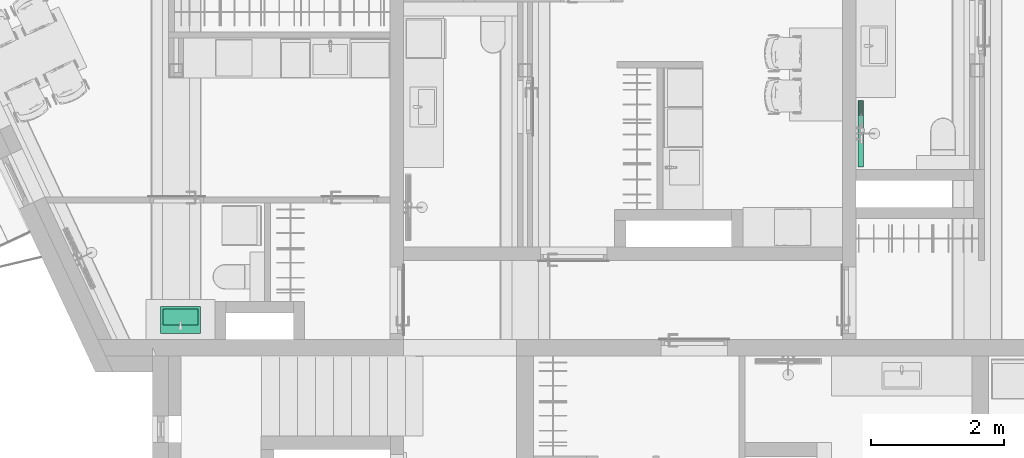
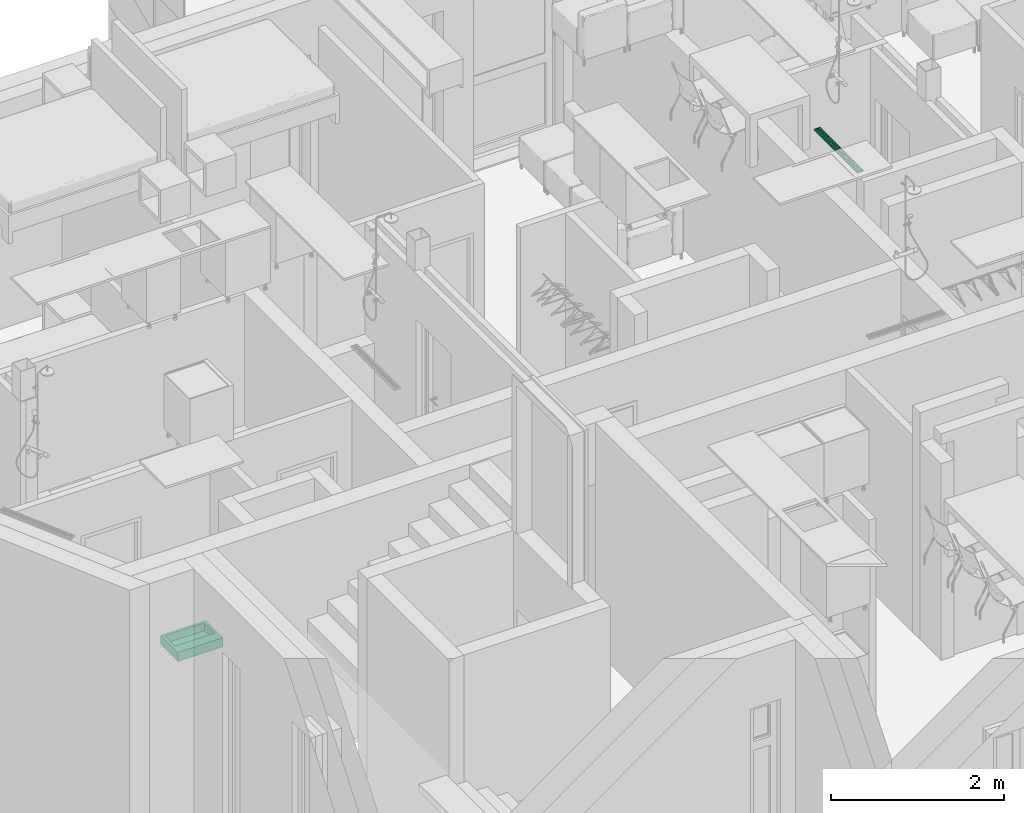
# One storey, part 52 of 125: 2 flow terminals.
"""IFC2X3 building model written with IfcOpenShell, lengths in millimetres."""

import ifcopenshell
import ifcopenshell.guid

model = None  # the IFC model being written
_history = None  # IfcOwnerHistory: only IFC2X3 demands one
_inside = {}  # id of a spatial element -> (the spatial element, [elements in it])
_under = {}  # id of a project, library or spatial element -> (it, [spatial elements below it])
_declared = {}  # id of a project -> (the project, [libraries it declares])
_typed = {}  # id of a type object -> (the type object, [elements of that type])
_made_of = {}  # id of a material, layer set ... -> (it, [elements and type objects made of it])


def new_model(schema):
    """Start an empty IFC model of exactly this schema.

    Asked for "IFC4X3", IfcOpenShell would pick the latest addendum, in which some entities
    have other attributes; the version numbers below select the first issue.
    IFC2X3 requires an IfcOwnerHistory on every rooted entity: one is made here for all.
    """
    global model, _history
    if schema == "IFC4X3":
        model = ifcopenshell.file(schema_version=(4, 3, 0, 0))
    else:
        model = ifcopenshell.file(schema=schema)
    _inside.clear()
    _under.clear()
    _declared.clear()
    _typed.clear()
    _made_of.clear()
    _history = None
    if model.schema == "IFC2X3":
        org = make("IfcOrganization", Name="unknown")
        user = make(
            "IfcPersonAndOrganization",
            ThePerson=make("IfcPerson", FamilyName="unknown"),
            TheOrganization=org,
        )
        app = make(
            "IfcApplication",
            ApplicationDeveloper=org,
            Version="unknown",
            ApplicationFullName="unknown",
            ApplicationIdentifier="unknown",
        )
        _history = make(
            "IfcOwnerHistory",
            OwningUser=user,
            OwningApplication=app,
            ChangeAction="ADDED",
            CreationDate=0,
        )
    return model


def make(cls, **values):
    """One entity of the class cls with the attributes given. An attribute that is None is left unset."""
    return model.create_entity(
        cls, **{name: value for name, value in values.items() if value is not None}
    )


def entity(cls, *values):
    """Any entity or typed value of the class cls, its attributes in the order of the schema. None: left unset."""
    e = model.create_entity(cls)
    for i, value in enumerate(values):
        if value is not None:
            e[i] = value
    return e


def rooted(cls, **values):
    """An entity with a GlobalId (a new one), such as an element, a storey or a relation."""
    return make(cls, GlobalId=ifcopenshell.guid.new(), OwnerHistory=_history, **values)


def si_unit(unit_type, name, prefix=None):
    """IfcSIUnit, for example si_unit("LENGTHUNIT", "METRE", prefix="MILLI")."""
    return make("IfcSIUnit", UnitType=unit_type, Prefix=prefix, Name=name)


def converted_unit(unit_type, name, factor, base, dimensions=None, offset=None):
    """IfcConversionBasedUnit, such as the inch: factor (a typed value) times the base unit."""
    return make(
        "IfcConversionBasedUnit"
        if offset is None
        else "IfcConversionBasedUnitWithOffset",
        ConversionOffset=offset,
        Dimensions=None
        if dimensions is None
        else entity("IfcDimensionalExponents", *dimensions),
        UnitType=unit_type,
        Name=name,
        ConversionFactor=make(
            "IfcMeasureWithUnit", ValueComponent=factor, UnitComponent=base
        ),
    )


def assignment(units):
    """IfcUnitAssignment: the units of a project."""
    return None if units is None else make("IfcUnitAssignment", Units=units)


def point(xyz):
    """IfcCartesianPoint."""
    return None if xyz is None else make("IfcCartesianPoint", Coordinates=xyz)


def direction(xyz):
    """IfcDirection."""
    return None if xyz is None else make("IfcDirection", DirectionRatios=xyz)


def frame(location, z_axis=None, x_axis=None):
    """IfcAxis2Placement3D, a coordinate frame: its origin and axes. An axis left out is left unset."""
    return make(
        "IfcAxis2Placement3D",
        Location=point(location),
        Axis=direction(z_axis),
        RefDirection=direction(x_axis),
    )


def origin():
    """The frame at (0, 0, 0) with its axes left unset."""
    return frame((0.0, 0.0, 0.0))


def place(relative_to, where):
    """IfcLocalPlacement: puts the frame where relative to a parent placement (None: the world)."""
    return make(
        "IfcLocalPlacement", PlacementRelTo=relative_to, RelativePlacement=where
    )


def context(
    kind, dimensions, precision=None, world=None, true_north=None, identifier=None
):
    """IfcGeometricRepresentationContext, for example the 3D "Model" context."""
    return make(
        "IfcGeometricRepresentationContext",
        ContextIdentifier=identifier,
        ContextType=kind,
        CoordinateSpaceDimension=dimensions,
        Precision=precision,
        WorldCoordinateSystem=world,
        TrueNorth=true_north,
    )


def subcontext(parent, identifier, kind, view, scale=None):
    """IfcGeometricRepresentationSubContext, for example "Body" below "Model"."""
    return make(
        "IfcGeometricRepresentationSubContext",
        ContextIdentifier=identifier,
        ContextType=kind,
        ParentContext=parent,
        TargetScale=scale,
        TargetView=view,
    )


def project(units=None, contexts=None):
    """IfcProject with its units and contexts."""
    return rooted(
        "IfcProject",
        Name="project",
        RepresentationContexts=contexts,
        UnitsInContext=assignment(units),
    )


def spatial(cls, under=None, at=None, **own):
    """A site, building, storey or space (cls), placed at a placement, below another one or the project."""
    s = rooted(cls, ObjectPlacement=at, **own)
    if under is not None:
        _under.setdefault(under.id(), (under, []))[1].append(s)
    return s


def faces_of(points, faces, orient=None, outer=None):
    """IfcFace entities. A face is a list of loops; a loop is a list of indices into points, from 0.

    orient and outer hold one flag for each loop. By default every Orientation is true, the
    first loop of a face is its IfcFaceOuterBound and the others are IfcFaceBound.
    """
    made = []
    for i, loops in enumerate(faces):
        bounds = []
        for j, loop in enumerate(loops):
            is_outer = j == 0 if outer is None else outer[i][j]
            bounds.append(
                make(
                    "IfcFaceOuterBound" if is_outer else "IfcFaceBound",
                    Bound=make("IfcPolyLoop", Polygon=[points[k] for k in loop]),
                    Orientation=True if orient is None else orient[i][j],
                )
            )
        made.append(make("IfcFace", Bounds=bounds))
    return made


def faceted_brep(points, faces, orient=None, outer=None, voids=None):
    """IfcFacetedBrep: a solid bounded by flat faces; with voids (closed shells), ...WithVoids."""
    shared = [point(p) for p in points]
    hull = make("IfcClosedShell", CfsFaces=faces_of(shared, faces, orient, outer))
    if voids is None:
        return make("IfcFacetedBrep", Outer=hull)
    return make(
        "IfcFacetedBrepWithVoids",
        Outer=hull,
        Voids=[
            make(cls, CfsFaces=faces_of(shared, fs, o, b)) for cls, fs, o, b in voids
        ],
    )


def shape(context_of_items, identifier, shape_type, items):
    """IfcShapeRepresentation: the items that make up one representation, for example the "Body"."""
    return make(
        "IfcShapeRepresentation",
        ContextOfItems=context_of_items,
        RepresentationIdentifier=identifier,
        RepresentationType=shape_type,
        Items=items,
    )


def source(mapping_origin, context_of_items, identifier, shape_type, items):
    """IfcRepresentationMap: a shape defined once, which mapped items show again and again."""
    return make(
        "IfcRepresentationMap",
        MappingOrigin=mapping_origin,
        MappedRepresentation=shape(context_of_items, identifier, shape_type, items),
    )


def transform(
    local_origin,
    x_axis=None,
    y_axis=None,
    z_axis=None,
    scale=None,
    scale2=None,
    scale3=None,
    uniform=True,
):
    """IfcCartesianTransformationOperator3D, or its non-uniform kind. x_axis, y_axis, z_axis: its Axis1, 2, 3."""
    if uniform:
        return make(
            "IfcCartesianTransformationOperator3D",
            Axis1=direction(x_axis),
            Axis2=direction(y_axis),
            LocalOrigin=point(local_origin),
            Scale=scale,
            Axis3=direction(z_axis),
        )
    return make(
        "IfcCartesianTransformationOperator3DnonUniform",
        Axis1=direction(x_axis),
        Axis2=direction(y_axis),
        LocalOrigin=point(local_origin),
        Scale=scale,
        Axis3=direction(z_axis),
        Scale2=scale2,
        Scale3=scale3,
    )


def mapped(mapping_source, mapping_target):
    """IfcMappedItem: shows the shape of a source again, moved by a transform."""
    return make(
        "IfcMappedItem", MappingSource=mapping_source, MappingTarget=mapping_target
    )


def material(Name=None, Category=None):
    """IfcMaterial."""
    return make("IfcMaterial", Name=Name, Category=Category)


def made_of(thing, what):
    """Note that an element or type object is made of a material, layer set ...; save() writes the relation."""
    if what is not None:
        _made_of.setdefault(what.id(), (what, []))[1].append(thing)
    return thing


def type_object(cls, material=None, **own):
    """A type object (cls), such as IfcWallType, which elements share."""
    return made_of(rooted(cls, **own), material)


def type_shapes(of_type, sources):
    """Give a type object the sources (RepresentationMaps) that its elements show as mapped items."""
    of_type.RepresentationMaps = sources


def element(
    cls,
    number,
    at=None,
    inside=None,
    cuts=None,
    type_object=None,
    material=None,
    context=None,
    identifier="Body",
    shape_type=None,
    held_by="IfcProductDefinitionShape",
    body=None,
    shapes=None,
    **own,
):
    """One element of the class cls, such as IfcWall. Its Tag is "e" and its number.

    at: its placement. inside: the storey or other place that contains it. cuts: it is an
    opening in that element (IfcRelVoidsElement). A single representation is given by context,
    identifier, shape_type and body (its items); several are given by shapes. held_by: the class
    of the entity that holds the representations. save() writes the other relations.
    """
    e = rooted(cls, Tag="e%d" % number, ObjectPlacement=at, **own)
    if body is not None:
        shapes = [shape(context, identifier, shape_type, body)]
    if shapes is not None:
        e.Representation = make(held_by, Representations=shapes)
    if inside is not None:
        _inside.setdefault(inside.id(), (inside, []))[1].append(e)
    if cuts is not None:
        rooted(
            "IfcRelVoidsElement", RelatingBuildingElement=cuts, RelatedOpeningElement=e
        )
    if type_object is not None:
        _typed.setdefault(type_object.id(), (type_object, []))[1].append(e)
    return made_of(e, material)


def aggregate(whole, parts):
    """IfcRelAggregates: a whole, such as a stair, and the parts it consists of."""
    return rooted("IfcRelAggregates", RelatingObject=whole, RelatedObjects=parts)


def save(model, path):
    """Write the relations noted so far, then the file.

    IfcRelAggregates (storeys below a building ...), IfcRelContainedInSpatialStructure (elements
    in a storey), IfcRelDefinesByType, IfcRelAssociatesMaterial and IfcRelDeclares: one each for
    every whole, place, type object, material and project.
    """
    for whole, parts in _under.values():
        aggregate(whole, parts)
    for where, things in _inside.values():
        rooted(
            "IfcRelContainedInSpatialStructure",
            RelatedElements=things,
            RelatingStructure=where,
        )
    for kind, things in _typed.values():
        rooted("IfcRelDefinesByType", RelatedObjects=things, RelatingType=kind)
    for what, things in _made_of.values():
        rooted("IfcRelAssociatesMaterial", RelatedObjects=things, RelatingMaterial=what)
    for by, libraries in _declared.values():
        rooted("IfcRelDeclares", RelatingContext=by, RelatedDefinitions=libraries)
    model.write(path)


model = new_model("IFC2X3")

# Units and contexts
model_context = context("Model", 3, precision=0.01, world=origin(), true_north=direction((6.123233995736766e-17, 1.0)))
plan_context = context("Plan", 3, precision=0.01, world=origin(), true_north=direction((6.123233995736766e-17, 1.0)))
body_context = subcontext(model_context, "Body", "Model", "MODEL_VIEW")
ifc_project = project(units=[si_unit("LENGTHUNIT", "METRE", prefix="MILLI"), converted_unit("PLANEANGLEUNIT", "DEGREE", entity("IfcPlaneAngleMeasure", 0.017453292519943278), si_unit("PLANEANGLEUNIT", "RADIAN"), dimensions=[0, 0, 0, 0, 0, 0, 0]), si_unit("AREAUNIT", "SQUARE_METRE")], contexts=[model_context, plan_context])

# Site, building, storey, space
site_placement = place(None, origin())
site = spatial("IfcSite", under=ifc_project, at=site_placement, Name="Default", CompositionType="ELEMENT")
building_placement = place(site_placement, origin())
building = spatial("IfcBuilding", under=site, at=building_placement, CompositionType="ELEMENT")
storey_placement = place(building_placement, frame((0.0, 0.0, 3125.0)))
storey = spatial("IfcBuildingStorey", under=building, at=storey_placement, Name="2K", CompositionType="ELEMENT", Elevation=3125.0)
space_1_placement = place(storey_placement, origin())
space_1 = spatial("IfcSpace", under=storey, at=space_1_placement, Name="2-3.4", CompositionType="ELEMENT", InteriorOrExteriorSpace="INTERNAL")

# Flow terminal
ifc_material = material(Name="<Unnamed>")
distribution_element_type_1 = type_object("IfcDistributionElementType", Name="HR_Plumbing-fixtures_Drain_Channel_Generic_v1:Default", material=ifc_material)
shared_shape_1 = source(origin(), body_context, "Body", "Brep", [
    faceted_brep([(500.0, 80.0, 0.0), (-500.0, 80.0, 0.0), (-500.0, 0.0, 0.0), (500.0, 0.0, 0.0), (20.0, 70.0, 0.0), (25.0, 70.0, 0.0), (25.0, 10.0, 0.0), (20.0, 10.0, 0.0), (35.0, 70.0, 0.0), (40.0, 70.0, 0.0), (40.0, 10.0, 0.0), (35.0, 10.0, 0.0), (50.0, 70.0, 0.0), (55.0, 70.0, 0.0), (55.0, 10.0, 0.0), (50.0, 10.0, 0.0), (65.0, 70.0, 0.0), (70.0, 70.0, 0.0), (70.0, 10.0, 0.0), (65.0, 10.0, 0.0), (80.0, 70.0, 0.0), (85.0, 70.0, 0.0), (85.0, 10.0, 0.0), (80.0, 10.0, 0.0), (95.0, 70.0, 0.0), (100.0, 70.0, 0.0), (100.0, 10.0, 0.0), (95.0, 10.0, 0.0), (110.0, 70.0, 0.0), (115.0, 70.0, 0.0), (115.0, 10.0, 0.0), (110.0, 10.0, 0.0), (125.0, 70.0, 0.0), (130.0, 70.0, 0.0), (130.0, 10.0, 0.0), (125.0, 10.0, 0.0), (140.0, 70.0, 0.0), (145.0, 70.0, 0.0), (145.0, 10.0, 0.0), (140.0, 10.0, 0.0), (155.0, 70.0, 0.0), (160.0, 70.0, 0.0), (160.0, 10.0, 0.0), (155.0, 10.0, 0.0), (170.0, 70.0, 0.0), (175.0, 70.0, 0.0), (175.0, 10.0, 0.0), (170.0, 10.0, 0.0), (185.0, 70.0, 0.0), (190.0, 70.0, 0.0), (190.0, 10.0, 0.0), (185.0, 10.0, 0.0), (200.0, 70.0, 0.0), (205.0, 70.0, 0.0), (205.0, 10.0, 0.0), (200.0, 10.0, 0.0), (215.0, 70.0, 0.0), (220.0, 70.0, 0.0), (220.0, 10.0, 0.0), (215.0, 10.0, 0.0), (230.0, 70.0, 0.0), (235.0, 70.0, 0.0), (235.0, 10.0, 0.0), (230.0, 10.0, 0.0), (245.0, 70.0, 0.0), (250.0, 70.0, 0.0), (250.0, 10.0, 0.0), (245.0, 10.0, 0.0), (260.0, 70.0, 0.0), (265.0, 70.0, 0.0), (265.0, 10.0, 0.0), (260.0, 10.0, 0.0), (275.0, 70.0, 0.0), (280.0, 70.0, 0.0), (280.0, 10.0, 0.0), (275.0, 10.0, 0.0), (290.0, 70.0, 0.0), (295.0, 70.0, 0.0), (295.0, 10.0, 0.0), (290.0, 10.0, 0.0), (305.0, 70.0, 0.0), (310.0, 70.0, 0.0), (310.0, 10.0, 0.0), (305.0, 10.0, 0.0), (320.0, 70.0, 0.0), (325.0, 70.0, 0.0), (325.0, 10.0, 0.0), (320.0, 10.0, 0.0), (335.0, 70.0, 0.0), (340.0, 70.0, 0.0), (340.0, 10.0, 0.0), (335.0, 10.0, 0.0), (350.0, 70.0, 0.0), (355.0, 70.0, 0.0), (355.0, 10.0, 0.0), (350.0, 10.0, 0.0), (365.0, 70.0, 0.0), (370.0, 70.0, 0.0), (370.0, 10.0, 0.0), (365.0, 10.0, 0.0), (380.0, 70.0, 0.0), (385.0, 70.0, 0.0), (385.0, 10.0, 0.0), (380.0, 10.0, 0.0), (-25.0, 70.0, 0.0), (-20.0, 70.0, 0.0), (-20.0, 10.0, 0.0), (-25.0, 10.0, 0.0), (-40.0, 70.0, 0.0), (-35.0, 70.0, 0.0), (-35.0, 10.0, 0.0), (-40.0, 10.0, 0.0), (-55.0, 70.0, 0.0), (-50.0, 70.0, 0.0), (-50.0, 10.0, 0.0), (-55.0, 10.0, 0.0), (-70.0, 70.0, 0.0), (-65.0, 70.0, 0.0), (-65.0, 10.0, 0.0), (-70.0, 10.0, 0.0), (-85.0, 70.0, 0.0), (-80.0, 70.0, 0.0), (-80.0, 10.0, 0.0), (-85.0, 10.0, 0.0), (-100.0, 70.0, 0.0), (-95.0, 70.0, 0.0), (-95.0, 10.0, 0.0), (-100.0, 10.0, 0.0), (-115.0, 70.0, 0.0), (-110.0, 70.0, 0.0), (-110.0, 10.0, 0.0), (-115.0, 10.0, 0.0), (-130.0, 70.0, 0.0), (-125.0, 70.0, 0.0), (-125.0, 10.0, 0.0), (-130.0, 10.0, 0.0), (-145.0, 70.0, 0.0), (-140.0, 70.0, 0.0), (-140.0, 10.0, 0.0), (-145.0, 10.0, 0.0), (-160.0, 70.0, 0.0), (-155.0, 70.0, 0.0), (-155.0, 10.0, 0.0), (-160.0, 10.0, 0.0), (-175.0, 70.0, 0.0), (-170.0, 70.0, 0.0), (-170.0, 10.0, 0.0), (-175.0, 10.0, 0.0), (-190.0, 70.0, 0.0), (-185.0, 70.0, 0.0), (-185.0, 10.0, 0.0), (-190.0, 10.0, 0.0), (-205.0, 70.0, 0.0), (-200.0, 70.0, 0.0), (-200.0, 10.0, 0.0), (-205.0, 10.0, 0.0), (-220.0, 70.0, 0.0), (-215.0, 70.0, 0.0), (-215.0, 10.0, 0.0), (-220.0, 10.0, 0.0), (-235.0, 70.0, 0.0), (-230.0, 70.0, 0.0), (-230.0, 10.0, 0.0), (-235.0, 10.0, 0.0), (-250.0, 70.0, 0.0), (-245.0, 70.0, 0.0), (-245.0, 10.0, 0.0), (-250.0, 10.0, 0.0), (-265.0, 70.0, 0.0), (-260.0, 70.0, 0.0), (-260.0, 10.0, 0.0), (-265.0, 10.0, 0.0), (-280.0, 70.0, 0.0), (-275.0, 70.0, 0.0), (-275.0, 10.0, 0.0), (-280.0, 10.0, 0.0), (-295.0, 70.0, 0.0), (-290.0, 70.0, 0.0), (-290.0, 10.0, 0.0), (-295.0, 10.0, 0.0), (-310.0, 70.0, 0.0), (-305.0, 70.0, 0.0), (-305.0, 10.0, 0.0), (-310.0, 10.0, 0.0), (-325.0, 70.0, 0.0), (-320.0, 70.0, 0.0), (-320.0, 10.0, 0.0), (-325.0, 10.0, 0.0), (-340.0, 70.0, 0.0), (-335.0, 70.0, 0.0), (-335.0, 10.0, 0.0), (-340.0, 10.0, 0.0), (-355.0, 70.0, 0.0), (-350.0, 70.0, 0.0), (-350.0, 10.0, 0.0), (-355.0, 10.0, 0.0), (-370.0, 70.0, 0.0), (-365.0, 70.0, 0.0), (-365.0, 10.0, 0.0), (-370.0, 10.0, 0.0), (-385.0, 70.0, 0.0), (-380.0, 70.0, 0.0), (-380.0, 10.0, 0.0), (-385.0, 10.0, 0.0), (395.0, 70.0, 0.0), (400.0, 70.0, 0.0), (400.0, 10.0, 0.0), (395.0, 10.0, 0.0), (410.0, 70.0, 0.0), (415.0, 70.0, 0.0), (415.0, 10.0, 0.0), (410.0, 10.0, 0.0), (425.0, 70.0, 0.0), (430.0, 70.0, 0.0), (430.0, 10.0, 0.0), (425.0, 10.0, 0.0), (440.0, 70.0, 0.0), (445.0, 70.0, 0.0), (445.0, 10.0, 0.0), (440.0, 10.0, 0.0), (455.0, 70.0, 0.0), (460.0, 70.0, 0.0), (460.0, 10.0, 0.0), (455.0, 10.0, 0.0), (470.0, 70.0, 0.0), (475.0, 70.0, 0.0), (475.0, 10.0, 0.0), (470.0, 10.0, 0.0), (485.0, 70.0, 0.0), (490.0, 70.0, 0.0), (490.0, 10.0, 0.0), (485.0, 10.0, 0.0), (-400.0, 70.0, 0.0), (-395.0, 70.0, 0.0), (-395.0, 10.0, 0.0), (-400.0, 10.0, 0.0), (-415.0, 70.0, 0.0), (-410.0, 70.0, 0.0), (-410.0, 10.0, 0.0), (-415.0, 10.0, 0.0), (-430.0, 70.0, 0.0), (-425.0, 70.0, 0.0), (-425.0, 10.0, 0.0), (-430.0, 10.0, 0.0), (-445.0, 70.0, 0.0), (-440.0, 70.0, 0.0), (-440.0, 10.0, 0.0), (-445.0, 10.0, 0.0), (-460.0, 70.0, 0.0), (-455.0, 70.0, 0.0), (-455.0, 10.0, 0.0), (-460.0, 10.0, 0.0), (-475.0, 70.0, 0.0), (-470.0, 70.0, 0.0), (-470.0, 10.0, 0.0), (-475.0, 10.0, 0.0), (-490.0, 70.0, 0.0), (-485.0, 70.0, 0.0), (-485.0, 10.0, 0.0), (-490.0, 10.0, 0.0), (-10.0, 70.0, 0.0), (-5.0, 70.0, 0.0), (-5.0, 10.0, 0.0), (-10.0, 10.0, 0.0), (5.0, 70.0, 0.0), (10.0, 70.0, 0.0), (10.0, 10.0, 0.0), (5.0, 10.0, 0.0), (-500.0, 80.0, -20.0), (500.0, 80.0, -20.0), (500.0, 0.0, -20.0), (-500.0, 0.0, -20.0), (498.5000000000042, 78.500000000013, -20.0), (-498.49999999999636, 78.500000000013, -20.0), (-498.49999999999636, 1.5000000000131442, -20.0), (498.5000000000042, 1.5000000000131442, -20.0), (498.5000000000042, 78.500000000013, -1.5000000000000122), (498.5000000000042, 1.5000000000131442, -1.5000000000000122), (-498.49999999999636, 1.5000000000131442, -1.5000000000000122), (-498.49999999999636, 78.500000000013, -1.5000000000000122), (25.0, 70.0, -1.5000000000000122), (20.0, 70.0, -1.5000000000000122), (20.0, 10.0, -1.5000000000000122), (25.0, 10.0, -1.5000000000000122), (40.0, 70.0, -1.5000000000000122), (35.0, 70.0, -1.5000000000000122), (35.0, 10.0, -1.5000000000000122), (40.0, 10.0, -1.5000000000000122), (55.0, 70.0, -1.5000000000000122), (50.0, 70.0, -1.5000000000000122), (50.0, 10.0, -1.5000000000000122), (55.0, 10.0, -1.5000000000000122), (70.0, 70.0, -1.5000000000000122), (65.0, 70.0, -1.5000000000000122), (65.0, 10.0, -1.5000000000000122), (70.0, 10.0, -1.5000000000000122), (85.0, 70.0, -1.5000000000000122), (80.0, 70.0, -1.5000000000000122), (80.0, 10.0, -1.5000000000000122), (85.0, 10.0, -1.5000000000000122), (100.0, 70.0, -1.5000000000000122), (95.0, 70.0, -1.5000000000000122), (95.0, 10.0, -1.5000000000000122), (100.0, 10.0, -1.5000000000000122), (115.0, 70.0, -1.5000000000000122), (110.0, 70.0, -1.5000000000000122), (110.0, 10.0, -1.5000000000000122), (115.0, 10.0, -1.5000000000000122), (130.0, 70.0, -1.5000000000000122), (125.0, 70.0, -1.5000000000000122), (125.0, 10.0, -1.5000000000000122), (130.0, 10.0, -1.5000000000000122), (145.0, 70.0, -1.5000000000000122), (140.0, 70.0, -1.5000000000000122), (140.0, 10.0, -1.5000000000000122), (145.0, 10.0, -1.5000000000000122), (160.0, 70.0, -1.5000000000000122), (155.0, 70.0, -1.5000000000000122), (155.0, 10.0, -1.5000000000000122), (160.0, 10.0, -1.5000000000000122), (175.0, 70.0, -1.5000000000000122), (170.0, 70.0, -1.5000000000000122), (170.0, 10.0, -1.5000000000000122), (175.0, 10.0, -1.5000000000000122), (190.0, 70.0, -1.5000000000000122), (185.0, 70.0, -1.5000000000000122), (185.0, 10.0, -1.5000000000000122), (190.0, 10.0, -1.5000000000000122), (205.0, 70.0, -1.5000000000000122), (200.0, 70.0, -1.5000000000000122), (200.0, 10.0, -1.5000000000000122), (205.0, 10.0, -1.5000000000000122), (220.0, 70.0, -1.5000000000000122), (215.0, 70.0, -1.5000000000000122), (215.0, 10.0, -1.5000000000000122), (220.0, 10.0, -1.5000000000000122), (235.0, 70.0, -1.5000000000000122), (230.0, 70.0, -1.5000000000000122), (230.0, 10.0, -1.5000000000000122), (235.0, 10.0, -1.5000000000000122), (250.0, 70.0, -1.5000000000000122), (245.0, 70.0, -1.5000000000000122), (245.0, 10.0, -1.5000000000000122), (250.0, 10.0, -1.5000000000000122), (265.0, 70.0, -1.5000000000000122), (260.0, 70.0, -1.5000000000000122), (260.0, 10.0, -1.5000000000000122), (265.0, 10.0, -1.5000000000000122), (280.0, 70.0, -1.5000000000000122), (275.0, 70.0, -1.5000000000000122), (275.0, 10.0, -1.5000000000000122), (280.0, 10.0, -1.5000000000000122), (295.0, 70.0, -1.5000000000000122), (290.0, 70.0, -1.5000000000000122), (290.0, 10.0, -1.5000000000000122), (295.0, 10.0, -1.5000000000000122), (310.0, 70.0, -1.5000000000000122), (305.0, 70.0, -1.5000000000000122), (305.0, 10.0, -1.5000000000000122), (310.0, 10.0, -1.5000000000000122), (325.0, 70.0, -1.5000000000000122), (320.0, 70.0, -1.5000000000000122), (320.0, 10.0, -1.5000000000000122), (325.0, 10.0, -1.5000000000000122), (340.0, 70.0, -1.5000000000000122), (335.0, 70.0, -1.5000000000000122), (335.0, 10.0, -1.5000000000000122), (340.0, 10.0, -1.5000000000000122), (355.0, 70.0, -1.5000000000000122), (350.0, 70.0, -1.5000000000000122), (350.0, 10.0, -1.5000000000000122), (355.0, 10.0, -1.5000000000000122), (370.0, 70.0, -1.5000000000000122), (365.0, 70.0, -1.5000000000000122), (365.0, 10.0, -1.5000000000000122), (370.0, 10.0, -1.5000000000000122), (385.0, 70.0, -1.5000000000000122), (380.0, 70.0, -1.5000000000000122), (380.0, 10.0, -1.5000000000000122), (385.0, 10.0, -1.5000000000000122), (-20.0, 70.0, -1.5000000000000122), (-25.0, 70.0, -1.5000000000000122), (-25.0, 10.0, -1.5000000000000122), (-20.0, 10.0, -1.5000000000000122), (-35.0, 70.0, -1.5000000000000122), (-40.0, 70.0, -1.5000000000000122), (-40.0, 10.0, -1.5000000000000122), (-35.0, 10.0, -1.5000000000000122), (-50.0, 70.0, -1.5000000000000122), (-55.0, 70.0, -1.5000000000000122), (-55.0, 10.0, -1.5000000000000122), (-50.0, 10.0, -1.5000000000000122), (-65.0, 70.0, -1.5000000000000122), (-70.0, 70.0, -1.5000000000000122), (-70.0, 10.0, -1.5000000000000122), (-65.0, 10.0, -1.5000000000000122), (-80.0, 70.0, -1.5000000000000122), (-85.0, 70.0, -1.5000000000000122), (-85.0, 10.0, -1.5000000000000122), (-80.0, 10.0, -1.5000000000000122), (-95.0, 70.0, -1.5000000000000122), (-100.0, 70.0, -1.5000000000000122), (-100.0, 10.0, -1.5000000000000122), (-95.0, 10.0, -1.5000000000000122), (-110.0, 70.0, -1.5000000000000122), (-115.0, 70.0, -1.5000000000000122), (-115.0, 10.0, -1.5000000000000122), (-110.0, 10.0, -1.5000000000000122), (-125.0, 70.0, -1.5000000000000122), (-130.0, 70.0, -1.5000000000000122), (-130.0, 10.0, -1.5000000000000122), (-125.0, 10.0, -1.5000000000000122), (-140.0, 70.0, -1.5000000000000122), (-145.0, 70.0, -1.5000000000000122), (-145.0, 10.0, -1.5000000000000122), (-140.0, 10.0, -1.5000000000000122), (-155.0, 70.0, -1.5000000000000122), (-160.0, 70.0, -1.5000000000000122), (-160.0, 10.0, -1.5000000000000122), (-155.0, 10.0, -1.5000000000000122), (-170.0, 70.0, -1.5000000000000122), (-175.0, 70.0, -1.5000000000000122), (-175.0, 10.0, -1.5000000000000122), (-170.0, 10.0, -1.5000000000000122), (-185.0, 70.0, -1.5000000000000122), (-190.0, 70.0, -1.5000000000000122), (-190.0, 10.0, -1.5000000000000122), (-185.0, 10.0, -1.5000000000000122), (-200.0, 70.0, -1.5000000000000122), (-205.0, 70.0, -1.5000000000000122), (-205.0, 10.0, -1.5000000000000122), (-200.0, 10.0, -1.5000000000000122), (-215.0, 70.0, -1.5000000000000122), (-220.0, 70.0, -1.5000000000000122), (-220.0, 10.0, -1.5000000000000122), (-215.0, 10.0, -1.5000000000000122), (-230.0, 70.0, -1.5000000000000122), (-235.0, 70.0, -1.5000000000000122), (-235.0, 10.0, -1.5000000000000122), (-230.0, 10.0, -1.5000000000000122), (-245.0, 70.0, -1.5000000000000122), (-250.0, 70.0, -1.5000000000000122), (-250.0, 10.0, -1.5000000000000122), (-245.0, 10.0, -1.5000000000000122), (-260.0, 70.0, -1.5000000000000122), (-265.0, 70.0, -1.5000000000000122), (-265.0, 10.0, -1.5000000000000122), (-260.0, 10.0, -1.5000000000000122), (-275.0, 70.0, -1.5000000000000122), (-280.0, 70.0, -1.5000000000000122), (-280.0, 10.0, -1.5000000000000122), (-275.0, 10.0, -1.5000000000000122), (-290.0, 70.0, -1.5000000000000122), (-295.0, 70.0, -1.5000000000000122), (-295.0, 10.0, -1.5000000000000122), (-290.0, 10.0, -1.5000000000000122), (-305.0, 70.0, -1.5000000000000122), (-310.0, 70.0, -1.5000000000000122), (-310.0, 10.0, -1.5000000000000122), (-305.0, 10.0, -1.5000000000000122), (-320.0, 70.0, -1.5000000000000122), (-325.0, 70.0, -1.5000000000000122), (-325.0, 10.0, -1.5000000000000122), (-320.0, 10.0, -1.5000000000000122), (-335.0, 70.0, -1.5000000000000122), (-340.0, 70.0, -1.5000000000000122), (-340.0, 10.0, -1.5000000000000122), (-335.0, 10.0, -1.5000000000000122), (-350.0, 70.0, -1.5000000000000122), (-355.0, 70.0, -1.5000000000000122), (-355.0, 10.0, -1.5000000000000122), (-350.0, 10.0, -1.5000000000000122), (-365.0, 70.0, -1.5000000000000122), (-370.0, 70.0, -1.5000000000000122), (-370.0, 10.0, -1.5000000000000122), (-365.0, 10.0, -1.5000000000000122), (-380.0, 70.0, -1.5000000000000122), (-385.0, 70.0, -1.5000000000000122), (-385.0, 10.0, -1.5000000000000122), (-380.0, 10.0, -1.5000000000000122), (400.0, 70.0, -1.5000000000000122), (395.0, 70.0, -1.5000000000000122), (395.0, 10.0, -1.5000000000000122), (400.0, 10.0, -1.5000000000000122), (415.0, 70.0, -1.5000000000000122), (410.0, 70.0, -1.5000000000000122), (410.0, 10.0, -1.5000000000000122), (415.0, 10.0, -1.5000000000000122), (430.0, 70.0, -1.5000000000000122), (425.0, 70.0, -1.5000000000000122), (425.0, 10.0, -1.5000000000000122), (430.0, 10.0, -1.5000000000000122), (445.0, 70.0, -1.5000000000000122), (440.0, 70.0, -1.5000000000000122), (440.0, 10.0, -1.5000000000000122), (445.0, 10.0, -1.5000000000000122), (460.0, 70.0, -1.5000000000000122), (455.0, 70.0, -1.5000000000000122), (455.0, 10.0, -1.5000000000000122), (460.0, 10.0, -1.5000000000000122), (475.0, 70.0, -1.5000000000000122), (470.0, 70.0, -1.5000000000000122), (470.0, 10.0, -1.5000000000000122), (475.0, 10.0, -1.5000000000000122), (490.0, 70.0, -1.5000000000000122), (485.0, 70.0, -1.5000000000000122), (485.0, 10.0, -1.5000000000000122), (490.0, 10.0, -1.5000000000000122), (-395.0, 70.0, -1.5000000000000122), (-400.0, 70.0, -1.5000000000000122), (-400.0, 10.0, -1.5000000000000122), (-395.0, 10.0, -1.5000000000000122), (-410.0, 70.0, -1.5000000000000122), (-415.0, 70.0, -1.5000000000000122), (-415.0, 10.0, -1.5000000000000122), (-410.0, 10.0, -1.5000000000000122), (-425.0, 70.0, -1.5000000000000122), (-430.0, 70.0, -1.5000000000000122), (-430.0, 10.0, -1.5000000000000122), (-425.0, 10.0, -1.5000000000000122), (-440.0, 70.0, -1.5000000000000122), (-445.0, 70.0, -1.5000000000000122), (-445.0, 10.0, -1.5000000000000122), (-440.0, 10.0, -1.5000000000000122), (-455.0, 70.0, -1.5000000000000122), (-460.0, 70.0, -1.5000000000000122), (-460.0, 10.0, -1.5000000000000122), (-455.0, 10.0, -1.5000000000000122), (-470.0, 70.0, -1.5000000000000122), (-475.0, 70.0, -1.5000000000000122), (-475.0, 10.0, -1.5000000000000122), (-470.0, 10.0, -1.5000000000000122), (-485.0, 70.0, -1.5000000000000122), (-490.0, 70.0, -1.5000000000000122), (-490.0, 10.0, -1.5000000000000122), (-485.0, 10.0, -1.5000000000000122), (-5.0, 70.0, -1.5000000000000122), (-10.0, 70.0, -1.5000000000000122), (-10.0, 10.0, -1.5000000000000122), (-5.0, 10.0, -1.5000000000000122), (10.0, 70.0, -1.5000000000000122), (5.0, 70.0, -1.5000000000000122), (5.0, 10.0, -1.5000000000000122), (10.0, 10.0, -1.5000000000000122)], [[[0, 1, 2, 3], [4, 5, 6, 7], [8, 9, 10, 11], [12, 13, 14, 15], [16, 17, 18, 19], [20, 21, 22, 23], [24, 25, 26, 27], [28, 29, 30, 31], [32, 33, 34, 35], [36, 37, 38, 39], [40, 41, 42, 43], [44, 45, 46, 47], [48, 49, 50, 51], [52, 53, 54, 55], [56, 57, 58, 59], [60, 61, 62, 63], [64, 65, 66, 67], [68, 69, 70, 71], [72, 73, 74, 75], [76, 77, 78, 79], [80, 81, 82, 83], [84, 85, 86, 87], [88, 89, 90, 91], [92, 93, 94, 95], [96, 97, 98, 99], [100, 101, 102, 103], [104, 105, 106, 107], [108, 109, 110, 111], [112, 113, 114, 115], [116, 117, 118, 119], [120, 121, 122, 123], [124, 125, 126, 127], [128, 129, 130, 131], [132, 133, 134, 135], [136, 137, 138, 139], [140, 141, 142, 143], [144, 145, 146, 147], [148, 149, 150, 151], [152, 153, 154, 155], [156, 157, 158, 159], [160, 161, 162, 163], [164, 165, 166, 167], [168, 169, 170, 171], [172, 173, 174, 175], [176, 177, 178, 179], [180, 181, 182, 183], [184, 185, 186, 187], [188, 189, 190, 191], [192, 193, 194, 195], [196, 197, 198, 199], [200, 201, 202, 203], [204, 205, 206, 207], [208, 209, 210, 211], [212, 213, 214, 215], [216, 217, 218, 219], [220, 221, 222, 223], [224, 225, 226, 227], [228, 229, 230, 231], [232, 233, 234, 235], [236, 237, 238, 239], [240, 241, 242, 243], [244, 245, 246, 247], [248, 249, 250, 251], [252, 253, 254, 255], [256, 257, 258, 259], [260, 261, 262, 263], [264, 265, 266, 267]], [[268, 269, 270, 271], [272, 273, 274, 275]], [[1, 0, 269, 268]], [[2, 1, 268, 271]], [[3, 2, 271, 270]], [[0, 3, 270, 269]], [[276, 277, 278, 279], [280, 281, 282, 283], [284, 285, 286, 287], [288, 289, 290, 291], [292, 293, 294, 295], [296, 297, 298, 299], [300, 301, 302, 303], [304, 305, 306, 307], [308, 309, 310, 311], [312, 313, 314, 315], [316, 317, 318, 319], [320, 321, 322, 323], [324, 325, 326, 327], [328, 329, 330, 331], [332, 333, 334, 335], [336, 337, 338, 339], [340, 341, 342, 343], [344, 345, 346, 347], [348, 349, 350, 351], [352, 353, 354, 355], [356, 357, 358, 359], [360, 361, 362, 363], [364, 365, 366, 367], [368, 369, 370, 371], [372, 373, 374, 375], [376, 377, 378, 379], [380, 381, 382, 383], [384, 385, 386, 387], [388, 389, 390, 391], [392, 393, 394, 395], [396, 397, 398, 399], [400, 401, 402, 403], [404, 405, 406, 407], [408, 409, 410, 411], [412, 413, 414, 415], [416, 417, 418, 419], [420, 421, 422, 423], [424, 425, 426, 427], [428, 429, 430, 431], [432, 433, 434, 435], [436, 437, 438, 439], [440, 441, 442, 443], [444, 445, 446, 447], [448, 449, 450, 451], [452, 453, 454, 455], [456, 457, 458, 459], [460, 461, 462, 463], [464, 465, 466, 467], [468, 469, 470, 471], [472, 473, 474, 475], [476, 477, 478, 479], [480, 481, 482, 483], [484, 485, 486, 487], [488, 489, 490, 491], [492, 493, 494, 495], [496, 497, 498, 499], [500, 501, 502, 503], [504, 505, 506, 507], [508, 509, 510, 511], [512, 513, 514, 515], [516, 517, 518, 519], [520, 521, 522, 523], [524, 525, 526, 527], [528, 529, 530, 531], [532, 533, 534, 535], [536, 537, 538, 539], [540, 541, 542, 543]], [[276, 279, 273, 272]], [[279, 278, 274, 273]], [[278, 277, 275, 274]], [[277, 276, 272, 275]], [[5, 4, 281, 280]], [[4, 7, 282, 281]], [[7, 6, 283, 282]], [[6, 5, 280, 283]], [[9, 8, 285, 284]], [[8, 11, 286, 285]], [[11, 10, 287, 286]], [[10, 9, 284, 287]], [[13, 12, 289, 288]], [[12, 15, 290, 289]], [[15, 14, 291, 290]], [[14, 13, 288, 291]], [[17, 16, 293, 292]], [[16, 19, 294, 293]], [[19, 18, 295, 294]], [[18, 17, 292, 295]], [[21, 20, 297, 296]], [[20, 23, 298, 297]], [[23, 22, 299, 298]], [[22, 21, 296, 299]], [[25, 24, 301, 300]], [[24, 27, 302, 301]], [[27, 26, 303, 302]], [[26, 25, 300, 303]], [[29, 28, 305, 304]], [[28, 31, 306, 305]], [[31, 30, 307, 306]], [[30, 29, 304, 307]], [[33, 32, 309, 308]], [[32, 35, 310, 309]], [[35, 34, 311, 310]], [[34, 33, 308, 311]], [[37, 36, 313, 312]], [[36, 39, 314, 313]], [[39, 38, 315, 314]], [[38, 37, 312, 315]], [[41, 40, 317, 316]], [[40, 43, 318, 317]], [[43, 42, 319, 318]], [[42, 41, 316, 319]], [[45, 44, 321, 320]], [[44, 47, 322, 321]], [[47, 46, 323, 322]], [[46, 45, 320, 323]], [[49, 48, 325, 324]], [[48, 51, 326, 325]], [[51, 50, 327, 326]], [[50, 49, 324, 327]], [[53, 52, 329, 328]], [[52, 55, 330, 329]], [[55, 54, 331, 330]], [[54, 53, 328, 331]], [[57, 56, 333, 332]], [[56, 59, 334, 333]], [[59, 58, 335, 334]], [[58, 57, 332, 335]], [[61, 60, 337, 336]], [[60, 63, 338, 337]], [[63, 62, 339, 338]], [[62, 61, 336, 339]], [[65, 64, 341, 340]], [[64, 67, 342, 341]], [[67, 66, 343, 342]], [[66, 65, 340, 343]], [[69, 68, 345, 344]], [[68, 71, 346, 345]], [[71, 70, 347, 346]], [[70, 69, 344, 347]], [[73, 72, 349, 348]], [[72, 75, 350, 349]], [[75, 74, 351, 350]], [[74, 73, 348, 351]], [[77, 76, 353, 352]], [[76, 79, 354, 353]], [[79, 78, 355, 354]], [[78, 77, 352, 355]], [[81, 80, 357, 356]], [[80, 83, 358, 357]], [[83, 82, 359, 358]], [[82, 81, 356, 359]], [[85, 84, 361, 360]], [[84, 87, 362, 361]], [[87, 86, 363, 362]], [[86, 85, 360, 363]], [[89, 88, 365, 364]], [[88, 91, 366, 365]], [[91, 90, 367, 366]], [[90, 89, 364, 367]], [[93, 92, 369, 368]], [[92, 95, 370, 369]], [[95, 94, 371, 370]], [[94, 93, 368, 371]], [[97, 96, 373, 372]], [[96, 99, 374, 373]], [[99, 98, 375, 374]], [[98, 97, 372, 375]], [[101, 100, 377, 376]], [[100, 103, 378, 377]], [[103, 102, 379, 378]], [[102, 101, 376, 379]], [[105, 104, 381, 380]], [[104, 107, 382, 381]], [[107, 106, 383, 382]], [[106, 105, 380, 383]], [[109, 108, 385, 384]], [[108, 111, 386, 385]], [[111, 110, 387, 386]], [[110, 109, 384, 387]], [[113, 112, 389, 388]], [[112, 115, 390, 389]], [[115, 114, 391, 390]], [[114, 113, 388, 391]], [[117, 116, 393, 392]], [[116, 119, 394, 393]], [[119, 118, 395, 394]], [[118, 117, 392, 395]], [[121, 120, 397, 396]], [[120, 123, 398, 397]], [[123, 122, 399, 398]], [[122, 121, 396, 399]], [[125, 124, 401, 400]], [[124, 127, 402, 401]], [[127, 126, 403, 402]], [[126, 125, 400, 403]], [[129, 128, 405, 404]], [[128, 131, 406, 405]], [[131, 130, 407, 406]], [[130, 129, 404, 407]], [[133, 132, 409, 408]], [[132, 135, 410, 409]], [[135, 134, 411, 410]], [[134, 133, 408, 411]], [[137, 136, 413, 412]], [[136, 139, 414, 413]], [[139, 138, 415, 414]], [[138, 137, 412, 415]], [[141, 140, 417, 416]], [[140, 143, 418, 417]], [[143, 142, 419, 418]], [[142, 141, 416, 419]], [[145, 144, 421, 420]], [[144, 147, 422, 421]], [[147, 146, 423, 422]], [[146, 145, 420, 423]], [[149, 148, 425, 424]], [[148, 151, 426, 425]], [[151, 150, 427, 426]], [[150, 149, 424, 427]], [[153, 152, 429, 428]], [[152, 155, 430, 429]], [[155, 154, 431, 430]], [[154, 153, 428, 431]], [[157, 156, 433, 432]], [[156, 159, 434, 433]], [[159, 158, 435, 434]], [[158, 157, 432, 435]], [[161, 160, 437, 436]], [[160, 163, 438, 437]], [[163, 162, 439, 438]], [[162, 161, 436, 439]], [[165, 164, 441, 440]], [[164, 167, 442, 441]], [[167, 166, 443, 442]], [[166, 165, 440, 443]], [[169, 168, 445, 444]], [[168, 171, 446, 445]], [[171, 170, 447, 446]], [[170, 169, 444, 447]], [[173, 172, 449, 448]], [[172, 175, 450, 449]], [[175, 174, 451, 450]], [[174, 173, 448, 451]], [[177, 176, 453, 452]], [[176, 179, 454, 453]], [[179, 178, 455, 454]], [[178, 177, 452, 455]], [[181, 180, 457, 456]], [[180, 183, 458, 457]], [[183, 182, 459, 458]], [[182, 181, 456, 459]], [[185, 184, 461, 460]], [[184, 187, 462, 461]], [[187, 186, 463, 462]], [[186, 185, 460, 463]], [[189, 188, 465, 464]], [[188, 191, 466, 465]], [[191, 190, 467, 466]], [[190, 189, 464, 467]], [[193, 192, 469, 468]], [[192, 195, 470, 469]], [[195, 194, 471, 470]], [[194, 193, 468, 471]], [[197, 196, 473, 472]], [[196, 199, 474, 473]], [[199, 198, 475, 474]], [[198, 197, 472, 475]], [[201, 200, 477, 476]], [[200, 203, 478, 477]], [[203, 202, 479, 478]], [[202, 201, 476, 479]], [[205, 204, 481, 480]], [[204, 207, 482, 481]], [[207, 206, 483, 482]], [[206, 205, 480, 483]], [[209, 208, 485, 484]], [[208, 211, 486, 485]], [[211, 210, 487, 486]], [[210, 209, 484, 487]], [[213, 212, 489, 488]], [[212, 215, 490, 489]], [[215, 214, 491, 490]], [[214, 213, 488, 491]], [[217, 216, 493, 492]], [[216, 219, 494, 493]], [[219, 218, 495, 494]], [[218, 217, 492, 495]], [[221, 220, 497, 496]], [[220, 223, 498, 497]], [[223, 222, 499, 498]], [[222, 221, 496, 499]], [[225, 224, 501, 500]], [[224, 227, 502, 501]], [[227, 226, 503, 502]], [[226, 225, 500, 503]], [[229, 228, 505, 504]], [[228, 231, 506, 505]], [[231, 230, 507, 506]], [[230, 229, 504, 507]], [[233, 232, 509, 508]], [[232, 235, 510, 509]], [[235, 234, 511, 510]], [[234, 233, 508, 511]], [[237, 236, 513, 512]], [[236, 239, 514, 513]], [[239, 238, 515, 514]], [[238, 237, 512, 515]], [[241, 240, 517, 516]], [[240, 243, 518, 517]], [[243, 242, 519, 518]], [[242, 241, 516, 519]], [[245, 244, 521, 520]], [[244, 247, 522, 521]], [[247, 246, 523, 522]], [[246, 245, 520, 523]], [[249, 248, 525, 524]], [[248, 251, 526, 525]], [[251, 250, 527, 526]], [[250, 249, 524, 527]], [[253, 252, 529, 528]], [[252, 255, 530, 529]], [[255, 254, 531, 530]], [[254, 253, 528, 531]], [[257, 256, 533, 532]], [[256, 259, 534, 533]], [[259, 258, 535, 534]], [[258, 257, 532, 535]], [[261, 260, 537, 536]], [[260, 263, 538, 537]], [[263, 262, 539, 538]], [[262, 261, 536, 539]], [[265, 264, 541, 540]], [[264, 267, 542, 541]], [[267, 266, 543, 542]], [[266, 265, 540, 543]]]),
])
type_shapes(distribution_element_type_1, [shared_shape_1])
flow_terminal_1_placement = place(space_1_placement, frame((10185.0, 9750.0, 3170.0), z_axis=(0.0, 0.0, 1.0), x_axis=(0.0, -1.0, 0.0)))
element("IfcFlowTerminal", 1, at=flow_terminal_1_placement, inside=space_1, type_object=distribution_element_type_1, material=ifc_material, Name="HR_Plumbing-fixtures_Drain_Channel_Generic_v1:Default", ObjectType="HR_Plumbing-fixtures_Drain_Channel_Generic_v1:Default", context=body_context, shape_type="MappedRepresentation", body=[
    mapped(shared_shape_1, transform((0.0, 0.0, 0.0), scale=1.0)),
])

# Space
space_2_placement = place(storey_placement, origin())
space_2 = spatial("IfcSpace", under=storey, at=space_2_placement, Name="2-1.4", CompositionType="ELEMENT", InteriorOrExteriorSpace="INTERNAL")

# Flow terminal
distribution_element_type_2 = type_object("IfcDistributionElementType", Name="HR_Plumbing-fixtures_Sink_Generic_Bathroom_v1:600 x 400 mm", material=ifc_material)
shared_shape_2 = source(origin(), body_context, "Body", "Brep", [
    faceted_brep([(300.0, 0.0, -3325.0), (-300.0, 0.0, -3325.0), (-300.0, -400.0, -3325.0), (300.0, -400.0, -3325.0), (-265.0, -125.0, -3325.0), (265.0, -125.0, -3325.0), (265.0, -365.0, -3325.0), (-265.0, -365.0, -3325.0), (300.0, 0.0, -3455.0), (300.0, -400.0, -3455.0), (-300.0, -400.0, -3455.0), (-300.0, 0.0, -3455.0), (265.0, -125.0, -3435.0), (-265.0, -125.0, -3435.0), (-265.0, -365.0, -3435.0), (265.0, -365.0, -3435.0)], [[[0, 1, 2, 3], [4, 5, 6, 7]], [[8, 9, 10, 11]], [[1, 0, 8, 11]], [[2, 1, 11, 10]], [[3, 2, 10, 9]], [[0, 3, 9, 8]], [[12, 13, 14, 15]], [[13, 12, 5, 4]], [[14, 13, 4, 7]], [[15, 14, 7, 6]], [[12, 15, 6, 5]]]),
])
type_shapes(distribution_element_type_2, [shared_shape_2])
flow_terminal_2_placement = place(space_2_placement, frame((-7.503232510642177, 6745.000000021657, 4925.0), z_axis=(0.0, 0.0, 1.0), x_axis=(-1.0, 0.0, 0.0)))
element("IfcFlowTerminal", 2, at=flow_terminal_2_placement, inside=space_2, type_object=distribution_element_type_2, material=ifc_material, Name="HR_Plumbing-fixtures_Sink_Generic_Bathroom_v1:600 x 400 mm", ObjectType="HR_Plumbing-fixtures_Sink_Generic_Bathroom_v1:600 x 400 mm", context=body_context, shape_type="MappedRepresentation", body=[
    mapped(shared_shape_2, transform((0.0, 0.0, 0.0), scale=1.0)),
])

save(model, "model.ifc")
